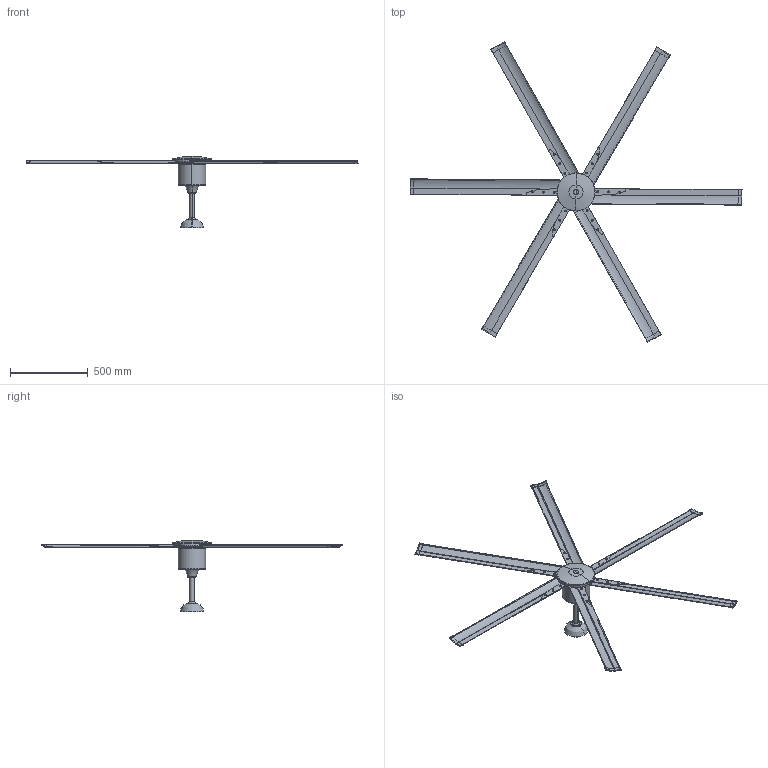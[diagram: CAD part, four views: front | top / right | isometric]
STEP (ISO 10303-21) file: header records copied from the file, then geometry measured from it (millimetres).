
FILE_DESCRIPTION(/* description */ (''),/* implementation_level */ '2;1');
FILE_NAME(/* name */ '33414A.step',/* time_stamp */ '2024-04-26T08:48:34+02:00',/* author */ ('RenataManzini'),/* organization */ (''),/* preprocessor_version */ 'ST-DEVELOPER v20',/* originating_system */ 'AutoCAD Mechanical',/* authorisation */ '');
FILE_SCHEMA (('AUTOMOTIVE_DESIGN { 1 0 10303 214 3 1 1 }'));
Length unit declared in the file: millimetre
Products named in the file (3): Product; Andros_ - cs-473942-Export; Andros_cs - cs-473944-Export
Assembly tree (2 placements, depth 2):
  Product
    Andros_ - cs-473942-Export
    Andros_cs - cs-473944-Export
Bounding box: 2132.31 x 1931.66 x 459.5 mm (x, y, z)
Volume: 3497310.6 mm3; surface area: 1794232.3 mm2
Topology: 44 solids, 44 shells, 1008 faces, 2455 edges, 1533 vertices
Faces by surface type: cylinder 556, plane 342, torus 58, bspline 46, cone 4, sphere 2
Entity records: 38328 total; most frequent: CARTESIAN_POINT 14722, DIRECTION 4922, ORIENTED_EDGE 4832, EDGE_CURVE 2416, AXIS2_PLACEMENT_3D 1910, VERTEX_POINT 1528, EDGE_LOOP 1154, LINE 1102
